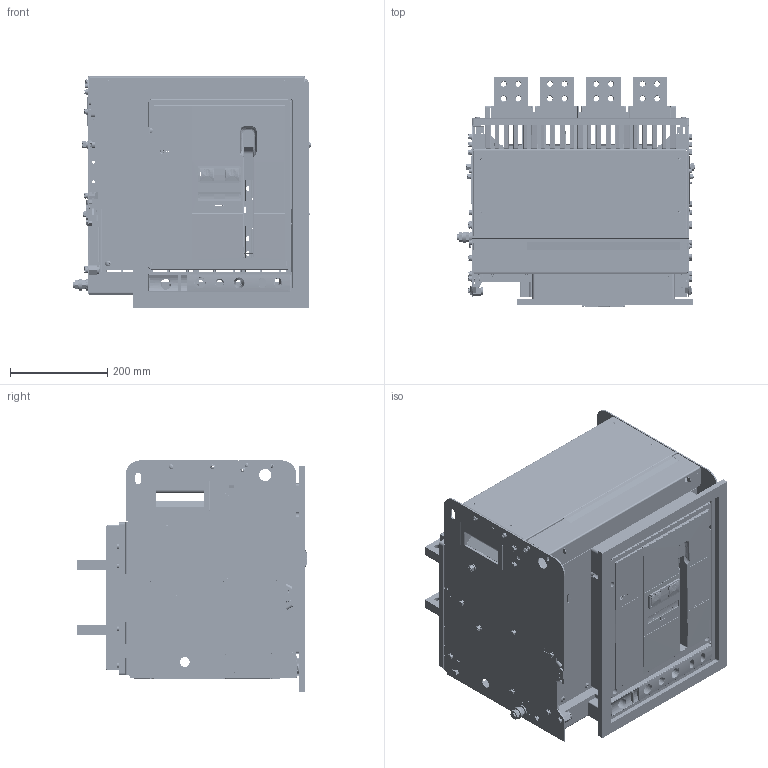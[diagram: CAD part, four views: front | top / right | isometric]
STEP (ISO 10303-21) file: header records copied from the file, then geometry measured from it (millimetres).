
FILE_DESCRIPTION (( 'STEP AP214' ), '1' );
FILE_NAME ('TEW5-2500 D 4P.STEP', '2026-04-06T11:33:15', ( '' ), ( '' ), 'SwSTEP 2.0', 'SolidWorks 2024', '' );
FILE_SCHEMA (( 'AUTOMOTIVE_DESIGN' ));
Products named in the file (1): TEW5-2500 D 4P
Bounding box: 487 x 473.6 x 476.2 mm (x, y, z)
Surface area: 3284822.2 mm2 (no closed solid volume)
Topology: 0 solids, 266 shells, 3720 faces, 16631 edges, 12518 vertices
Faces by surface type: plane 2025, cylinder 1154, cone 285, torus 154, bspline 78, sphere 24
Entity records: 205587 total; most frequent: CARTESIAN_POINT 78690, DIRECTION 23768, ORIENTED_EDGE 23703, EDGE_CURVE 16630, VERTEX_POINT 12518, LINE 9128, VECTOR 9128, AXIS2_PLACEMENT_3D 7320
